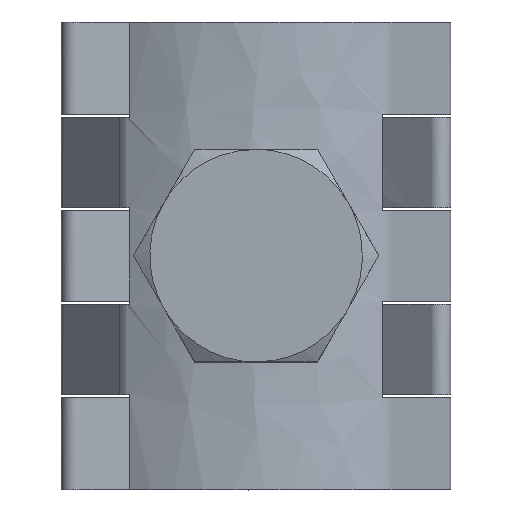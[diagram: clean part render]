
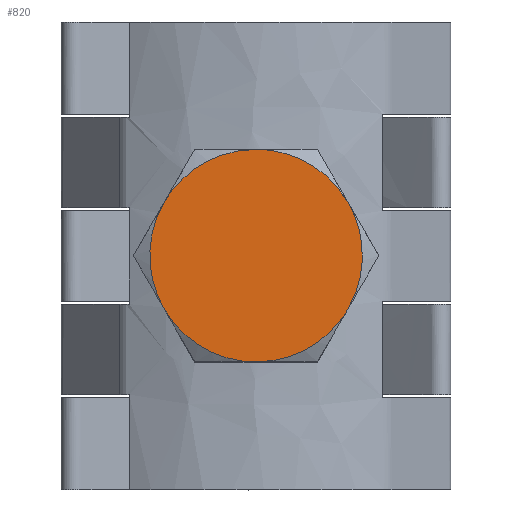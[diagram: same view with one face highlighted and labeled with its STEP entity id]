
A CAD part, top view. The second image highlights one B-rep face of the part: STEP entity #820.
In plain terms, the highlighted planar face has unit normal (0, 0, 1).
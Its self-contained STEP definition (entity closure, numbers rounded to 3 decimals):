
#65=PLANE($,#2480);
#820=ADVANCED_FACE($,(#900),#65,.T.);
#900=FACE_OUTER_BOUND($,#988,.T.);
#988=EDGE_LOOP($,(#1219,#1220,#1221,#1222,#1223,#1224));
#1219=ORIENTED_EDGE($,*,*,#1579,.T.);
#1220=ORIENTED_EDGE($,*,*,#1584,.T.);
#1221=ORIENTED_EDGE($,*,*,#1583,.T.);
#1222=ORIENTED_EDGE($,*,*,#1582,.T.);
#1223=ORIENTED_EDGE($,*,*,#1581,.T.);
#1224=ORIENTED_EDGE($,*,*,#1580,.T.);
#1579=EDGE_CURVE($,#1918,#1917,#2174,.T.);
#1580=EDGE_CURVE($,#1919,#1918,#2175,.T.);
#1581=EDGE_CURVE($,#1920,#1919,#2176,.T.);
#1582=EDGE_CURVE($,#1921,#1920,#2177,.T.);
#1583=EDGE_CURVE($,#1922,#1921,#2178,.T.);
#1584=EDGE_CURVE($,#1917,#1922,#2179,.T.);
#1917=VERTEX_POINT($,#4266);
#1918=VERTEX_POINT($,#4267);
#1919=VERTEX_POINT($,#4268);
#1920=VERTEX_POINT($,#4269);
#1921=VERTEX_POINT($,#4270);
#1922=VERTEX_POINT($,#4271);
#2174=(
BOUNDED_CURVE()
B_SPLINE_CURVE(2,(#4247,#4248,#4249),.UNSPECIFIED.,.F.,.F.)
B_SPLINE_CURVE_WITH_KNOTS((3,3),(5.236,6.283),.UNSPECIFIED.)
CURVE()
GEOMETRIC_REPRESENTATION_ITEM()
RATIONAL_B_SPLINE_CURVE((1.,0.866,1.))
REPRESENTATION_ITEM($)
);
#2175=(
BOUNDED_CURVE()
B_SPLINE_CURVE(2,(#4250,#4251,#4252),.UNSPECIFIED.,.F.,.F.)
B_SPLINE_CURVE_WITH_KNOTS((3,3),(4.189,5.236),.UNSPECIFIED.)
CURVE()
GEOMETRIC_REPRESENTATION_ITEM()
RATIONAL_B_SPLINE_CURVE((1.,0.866,1.))
REPRESENTATION_ITEM($)
);
#2176=(
BOUNDED_CURVE()
B_SPLINE_CURVE(2,(#4253,#4254,#4255),.UNSPECIFIED.,.F.,.F.)
B_SPLINE_CURVE_WITH_KNOTS((3,3),(3.142,4.189),.UNSPECIFIED.)
CURVE()
GEOMETRIC_REPRESENTATION_ITEM()
RATIONAL_B_SPLINE_CURVE((1.,0.866,1.))
REPRESENTATION_ITEM($)
);
#2177=(
BOUNDED_CURVE()
B_SPLINE_CURVE(2,(#4256,#4257,#4258),.UNSPECIFIED.,.F.,.F.)
B_SPLINE_CURVE_WITH_KNOTS((3,3),(2.094,3.142),.UNSPECIFIED.)
CURVE()
GEOMETRIC_REPRESENTATION_ITEM()
RATIONAL_B_SPLINE_CURVE((1.,0.866,1.))
REPRESENTATION_ITEM($)
);
#2178=(
BOUNDED_CURVE()
B_SPLINE_CURVE(2,(#4259,#4260,#4261),.UNSPECIFIED.,.F.,.F.)
B_SPLINE_CURVE_WITH_KNOTS((3,3),(1.047,2.094),.UNSPECIFIED.)
CURVE()
GEOMETRIC_REPRESENTATION_ITEM()
RATIONAL_B_SPLINE_CURVE((1.,0.866,1.))
REPRESENTATION_ITEM($)
);
#2179=(
BOUNDED_CURVE()
B_SPLINE_CURVE(2,(#4262,#4263,#4264),.UNSPECIFIED.,.F.,.F.)
B_SPLINE_CURVE_WITH_KNOTS((3,3),(0.,1.047),.UNSPECIFIED.)
CURVE()
GEOMETRIC_REPRESENTATION_ITEM()
RATIONAL_B_SPLINE_CURVE((1.,0.866,1.))
REPRESENTATION_ITEM($)
);
#2480=AXIS2_PLACEMENT_3D($,#4265,#2532,$);
#2532=DIRECTION($,(0.,0.,1.));
#4247=CARTESIAN_POINT($,(-4.326,-2.501,11.261));
#4248=CARTESIAN_POINT($,(-2.883,-5.,11.261));
#4249=CARTESIAN_POINT($,(0.003,-5.,11.261));
#4250=CARTESIAN_POINT($,(-4.326,2.499,11.261));
#4251=CARTESIAN_POINT($,(-5.769,-0.001,11.261));
#4252=CARTESIAN_POINT($,(-4.326,-2.501,11.261));
#4253=CARTESIAN_POINT($,(0.003,4.998,11.261));
#4254=CARTESIAN_POINT($,(-2.883,4.998,11.261));
#4255=CARTESIAN_POINT($,(-4.326,2.499,11.261));
#4256=CARTESIAN_POINT($,(4.333,2.499,11.261));
#4257=CARTESIAN_POINT($,(2.89,4.998,11.261));
#4258=CARTESIAN_POINT($,(0.003,4.998,11.261));
#4259=CARTESIAN_POINT($,(4.333,-2.501,11.261));
#4260=CARTESIAN_POINT($,(5.776,-0.001,11.261));
#4261=CARTESIAN_POINT($,(4.333,2.499,11.261));
#4262=CARTESIAN_POINT($,(0.003,-5.,11.261));
#4263=CARTESIAN_POINT($,(2.89,-5.,11.261));
#4264=CARTESIAN_POINT($,(4.333,-2.501,11.261));
#4265=CARTESIAN_POINT($,(-5.096,4.998,11.261));
#4266=CARTESIAN_POINT($,(0.003,-5.,11.261));
#4267=CARTESIAN_POINT($,(-4.326,-2.501,11.261));
#4268=CARTESIAN_POINT($,(-4.326,2.499,11.261));
#4269=CARTESIAN_POINT($,(0.003,4.998,11.261));
#4270=CARTESIAN_POINT($,(4.333,2.499,11.261));
#4271=CARTESIAN_POINT($,(4.333,-2.501,11.261));
